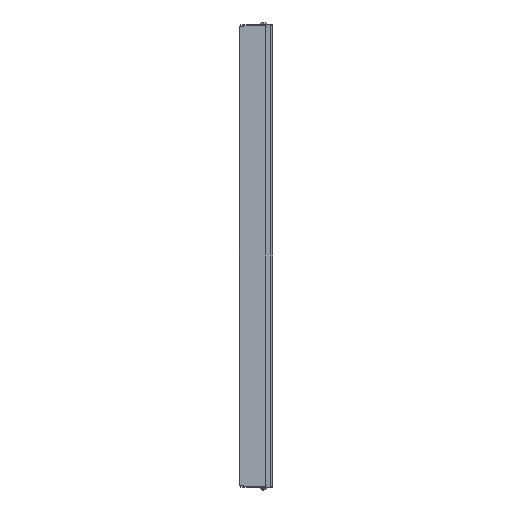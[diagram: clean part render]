
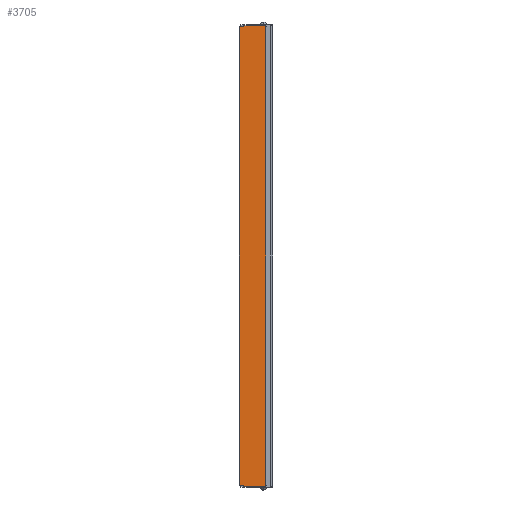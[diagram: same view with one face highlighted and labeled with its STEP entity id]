
A CAD part, left-side view. The second image highlights one B-rep face of the part: STEP entity #3705.
In plain terms, the highlighted planar face has unit normal (-1, 0, 0).
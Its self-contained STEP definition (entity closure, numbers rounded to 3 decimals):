
#189=DIRECTION('',(0.,1.,0.));
#190=VECTOR('',#189,3.3);
#191=CARTESIAN_POINT('',(-19.,13.2,184.5));
#192=LINE('',#191,#190);
#389=DIRECTION('',(0.,0.,-1.));
#390=VECTOR('',#389,1.);
#391=CARTESIAN_POINT('',(-19.,13.2,-184.5));
#392=LINE('',#391,#390);
#401=DIRECTION('',(0.,1.,0.));
#402=VECTOR('',#401,3.3);
#403=CARTESIAN_POINT('',(-19.,13.2,-184.5));
#404=LINE('',#403,#402);
#405=DIRECTION('',(0.,0.,1.));
#406=VECTOR('',#405,1.);
#407=CARTESIAN_POINT('',(-19.,13.2,184.5));
#408=LINE('',#407,#406);
#413=DIRECTION('',(0.,0.,1.));
#414=VECTOR('',#413,371.);
#415=CARTESIAN_POINT('',(-19.,-4.3,-185.5));
#416=LINE('',#415,#414);
#961=DIRECTION('',(0.,-1.,0.));
#962=VECTOR('',#961,17.5);
#963=CARTESIAN_POINT('',(-19.,13.2,-185.5));
#964=LINE('',#963,#962);
#2117=DIRECTION('',(0.,1.,0.));
#2118=VECTOR('',#2117,17.5);
#2119=CARTESIAN_POINT('',(-19.,-4.3,185.5));
#2120=LINE('',#2119,#2118);
#2321=DIRECTION('',(0.,0.,-1.));
#2322=VECTOR('',#2321,369.);
#2323=CARTESIAN_POINT('',(-19.,16.5,184.5));
#2324=LINE('',#2323,#2322);
#2357=CARTESIAN_POINT('',(-19.,16.5,-184.5));
#2358=VERTEX_POINT('',#2357);
#2367=CARTESIAN_POINT('',(-19.,16.5,184.5));
#2368=VERTEX_POINT('',#2367);
#2413=CARTESIAN_POINT('',(-19.,13.2,185.5));
#2414=VERTEX_POINT('',#2413);
#2619=CARTESIAN_POINT('',(-19.,-4.3,185.5));
#2621=VERTEX_POINT('',#2619);
#2701=CARTESIAN_POINT('',(-19.,13.2,184.5));
#2703=VERTEX_POINT('',#2701);
#2775=CARTESIAN_POINT('',(-19.,13.2,-185.5));
#2777=VERTEX_POINT('',#2775);
#2781=CARTESIAN_POINT('',(-19.,-4.3,-185.5));
#2782=VERTEX_POINT('',#2781);
#3011=CARTESIAN_POINT('',(-19.,13.2,-184.5));
#3012=VERTEX_POINT('',#3011);
#3686=CARTESIAN_POINT('',(-19.,16.5,-184.5));
#3687=DIRECTION('',(-1.,0.,0.));
#3688=DIRECTION('',(0.,-1.,0.));
#3689=AXIS2_PLACEMENT_3D('',#3686,#3687,#3688);
#3690=PLANE('',#3689);
#3692=ORIENTED_EDGE('',*,*,#3691,.F.);
#3694=ORIENTED_EDGE('',*,*,#3693,.F.);
#3695=ORIENTED_EDGE('',*,*,#3677,.F.);
#3696=ORIENTED_EDGE('',*,*,#3126,.T.);
#3698=ORIENTED_EDGE('',*,*,#3697,.F.);
#3699=ORIENTED_EDGE('',*,*,#3356,.F.);
#3700=ORIENTED_EDGE('',*,*,#3522,.T.);
#3702=ORIENTED_EDGE('',*,*,#3701,.F.);
#3703=EDGE_LOOP('',(#3692,#3694,#3695,#3696,#3698,#3699,#3700,#3702));
#3704=FACE_OUTER_BOUND('',#3703,.F.);
#3126=EDGE_CURVE('',#3012,#2358,#404,.T.);
#3356=EDGE_CURVE('',#2703,#2368,#192,.T.);
#3522=EDGE_CURVE('',#2703,#2414,#408,.T.);
#3677=EDGE_CURVE('',#3012,#2777,#392,.T.);
#3691=EDGE_CURVE('',#2782,#2621,#416,.T.);
#3693=EDGE_CURVE('',#2777,#2782,#964,.T.);
#3697=EDGE_CURVE('',#2368,#2358,#2324,.T.);
#3701=EDGE_CURVE('',#2621,#2414,#2120,.T.);
#3705=ADVANCED_FACE('',(#3704),#3690,.T.);
